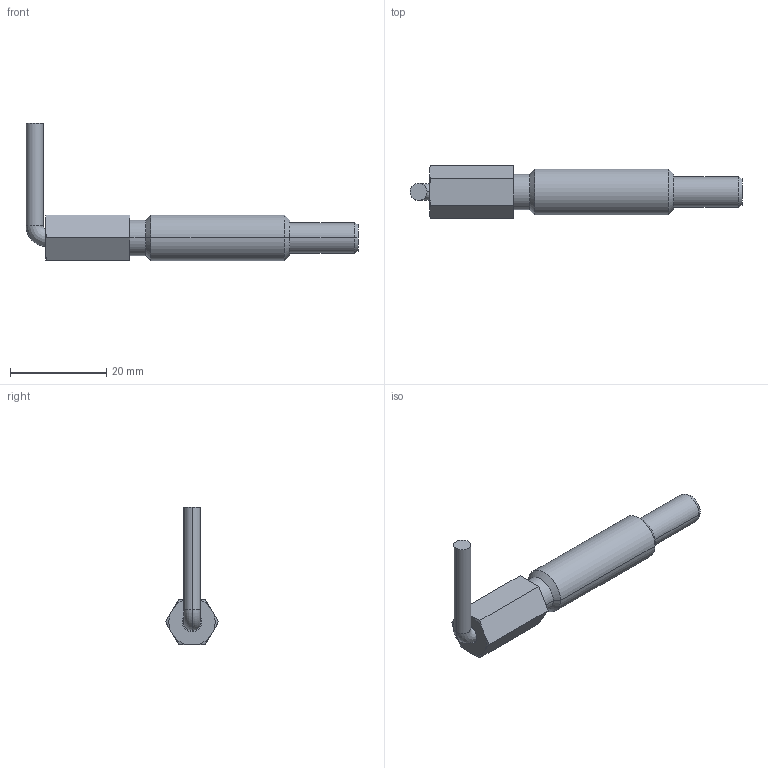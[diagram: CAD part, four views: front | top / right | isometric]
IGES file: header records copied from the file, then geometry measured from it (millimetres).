
Start section:  PTC IGES file: frn375-part.igs
Global section: file name: frn375-part.igs; native system: Pro/ENGINEER by Parametric Technology Corporation; preprocessor: 2002350; author: chant; organization: Unknown; date: 070614.112259; units: inch
Bounding box: 69.09 x 11 x 28.64 mm (x, y, z)
Surface area: 3778.9 mm2 (no closed solid volume)
Topology: 0 solids, 0 shells, 41 faces, 254 edges, 312 vertices
Faces by surface type: revolution 28, bspline 13
